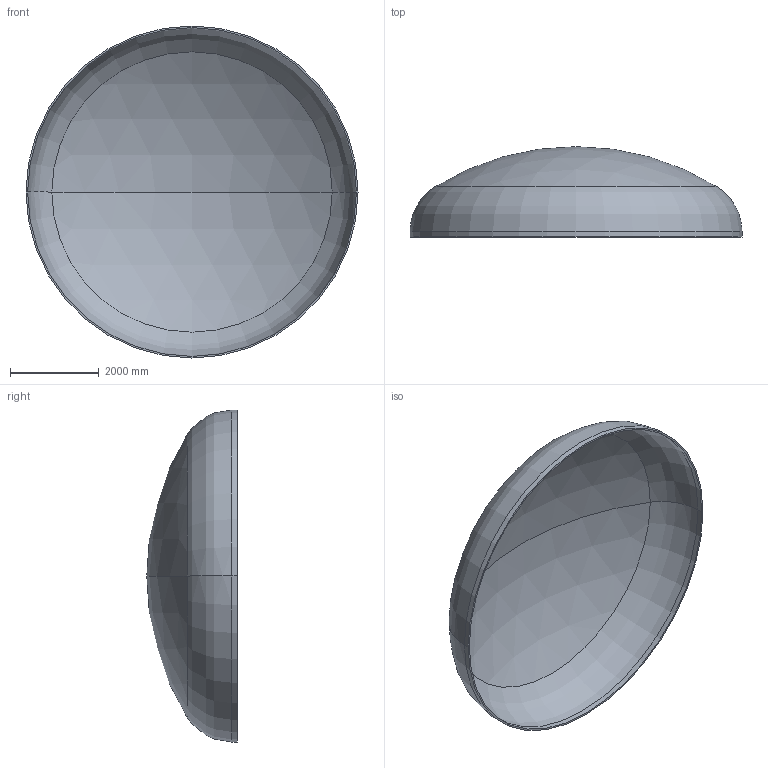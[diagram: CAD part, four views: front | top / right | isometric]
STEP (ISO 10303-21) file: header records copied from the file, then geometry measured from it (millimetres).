
FILE_DESCRIPTION (( 'STEP AP203' ), '1' );
FILE_NAME ('DIN 28013 Korbbogenform_-_Boden DIN 28013 - 7500 x 120 - I - s=37.step', '2016-07-04T10:53:30', ( '' ), ( '' ), 'SwSTEP 2.0', 'SolidWorks 2013', '' );
FILE_SCHEMA (( 'CONFIG_CONTROL_DESIGN' ));
Length unit declared in the file: millimetre
Products named in the file (1): DIN 28013 Korbbogenform_-_Boden DIN 28013 - 7500 x 120 - I - s=37
Bounding box: 7500 x 2042.31 x 7500 mm (x, y, z)
Volume: 2353374607.3 mm3; surface area: 128079746.3 mm2
Topology: 1 solids, 1 shells, 13 faces, 24 edges, 14 vertices
Faces by surface type: torus 4, cylinder 4, sphere 4, plane 1
Entity records: 407 total; most frequent: DIRECTION 72, CARTESIAN_POINT 52, ORIENTED_EDGE 48, AXIS2_PLACEMENT_3D 34, EDGE_CURVE 24, CIRCLE 20, EDGE_LOOP 14, VERTEX_POINT 14
